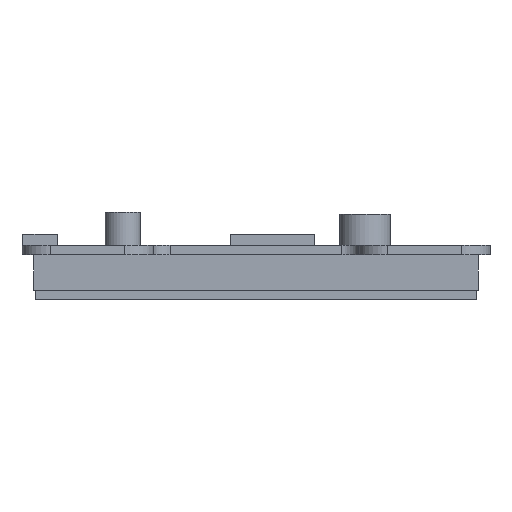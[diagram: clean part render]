
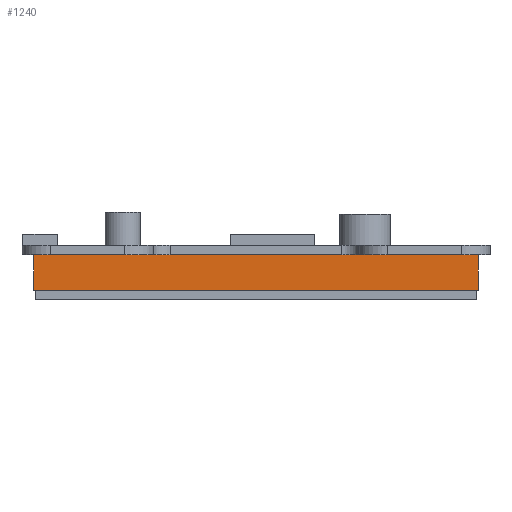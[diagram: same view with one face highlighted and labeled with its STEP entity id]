
A CAD part, front view. The second image highlights one B-rep face of the part: STEP entity #1240.
In plain terms, the highlighted planar face has unit normal (0, -1, 0).
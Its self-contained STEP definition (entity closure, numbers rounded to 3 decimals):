
#293=DIRECTION('',(-1.,0.,0.));
#294=VECTOR('',#293,77.8);
#295=CARTESIAN_POINT('',(38.89,-34.92,-1.6));
#296=LINE('',#295,#294);
#377=DIRECTION('',(0.,0.,-1.));
#378=VECTOR('',#377,6.3);
#379=CARTESIAN_POINT('',(-38.91,-34.92,-1.6));
#380=LINE('',#379,#378);
#381=DIRECTION('',(0.,0.,-1.));
#382=VECTOR('',#381,6.3);
#383=CARTESIAN_POINT('',(38.89,-34.92,-1.6));
#384=LINE('',#383,#382);
#397=DIRECTION('',(-1.,0.,0.));
#398=VECTOR('',#397,77.8);
#399=CARTESIAN_POINT('',(38.89,-34.92,-7.9));
#400=LINE('',#399,#398);
#657=CARTESIAN_POINT('',(-38.91,-34.92,-7.9));
#659=VERTEX_POINT('',#657);
#663=CARTESIAN_POINT('',(38.89,-34.92,-7.9));
#664=VERTEX_POINT('',#663);
#665=CARTESIAN_POINT('',(-38.91,-34.92,-1.6));
#667=VERTEX_POINT('',#665);
#671=CARTESIAN_POINT('',(38.89,-34.92,-1.6));
#672=VERTEX_POINT('',#671);
#1227=CARTESIAN_POINT('',(38.89,-34.92,-1.6));
#1228=DIRECTION('',(0.,-1.,0.));
#1229=DIRECTION('',(-1.,0.,0.));
#1230=AXIS2_PLACEMENT_3D('',#1227,#1228,#1229);
#1231=PLANE('',#1230);
#1232=ORIENTED_EDGE('',*,*,#947,.F.);
#1234=ORIENTED_EDGE('',*,*,#1233,.T.);
#1236=ORIENTED_EDGE('',*,*,#1235,.T.);
#1237=ORIENTED_EDGE('',*,*,#1218,.F.);
#1238=EDGE_LOOP('',(#1232,#1234,#1236,#1237));
#1239=FACE_OUTER_BOUND('',#1238,.F.);
#947=EDGE_CURVE('',#672,#667,#296,.T.);
#1218=EDGE_CURVE('',#667,#659,#380,.T.);
#1233=EDGE_CURVE('',#672,#664,#384,.T.);
#1235=EDGE_CURVE('',#664,#659,#400,.T.);
#1240=ADVANCED_FACE('',(#1239),#1231,.T.);
